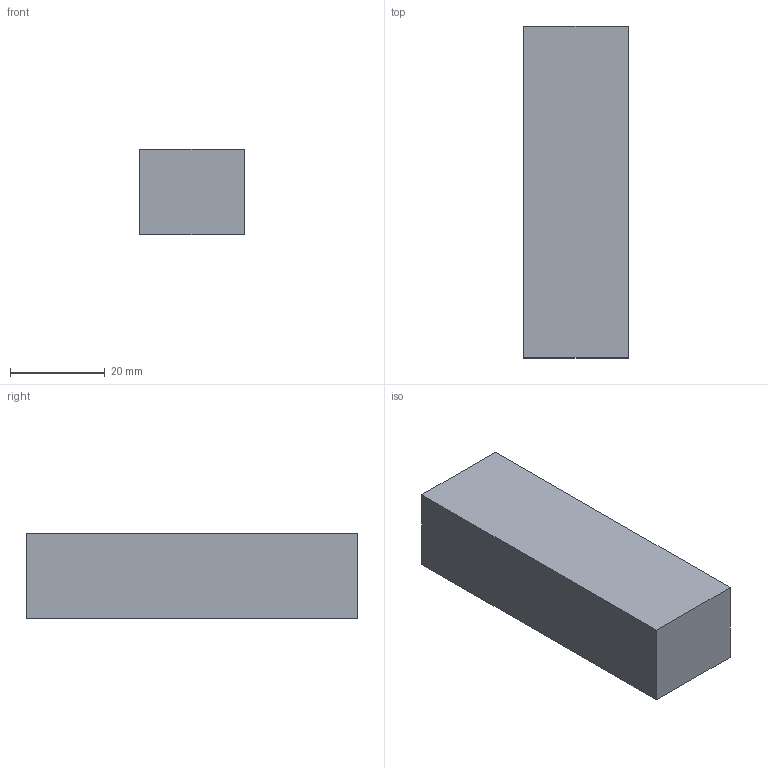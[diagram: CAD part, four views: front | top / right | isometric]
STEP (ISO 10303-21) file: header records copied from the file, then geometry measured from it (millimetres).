
FILE_DESCRIPTION(('Open CASCADE Model'),'2;1');
FILE_NAME('Open CASCADE Shape Model','2026-11-24T19:57:38',('Author'),( 'Open CASCADE'),'Open CASCADE STEP processor 7.8','Open CASCADE 7.8' ,'Unknown');
FILE_SCHEMA(('AUTOMOTIVE_DESIGN { 1 0 10303 214 1 1 1 1 }'));
Length unit declared in the file: millimetre
Products named in the file (1): Open CASCADE STEP translator 7.8 18
Bounding box: 22 x 70 x 18 mm (x, y, z)
Volume: 27720 mm3; surface area: 6392 mm2
Topology: 1 solids, 1 shells, 6 faces, 12 edges, 8 vertices
Faces by surface type: plane 6
Entity records: 322 total; most frequent: CARTESIAN_POINT 51, DIRECTION 50, LINE 36, VECTOR 36, ORIENTED_EDGE 24, PCURVE 24, DEFINITIONAL_REPRESENTATION 24, EDGE_CURVE 12
